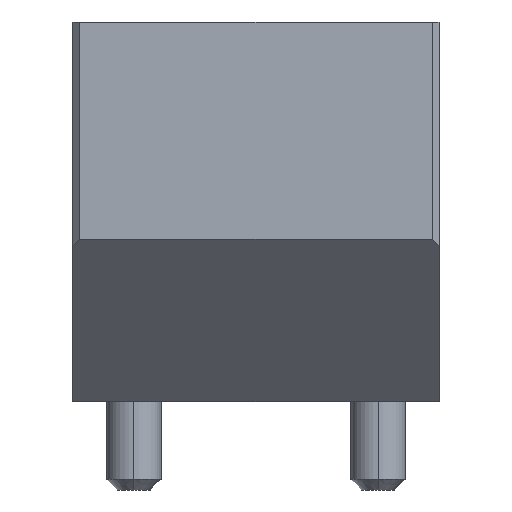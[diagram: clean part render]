
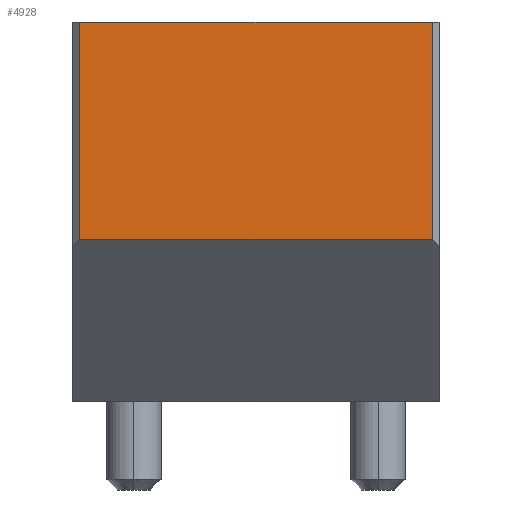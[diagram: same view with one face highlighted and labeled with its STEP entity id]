
A CAD part, left-side view. The second image highlights one B-rep face of the part: STEP entity #4928.
In plain terms, the highlighted planar face has unit normal (-1, 0, 0).
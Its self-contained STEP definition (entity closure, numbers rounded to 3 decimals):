
#95 = AXIS2_PLACEMENT_3D ( 'NONE', #4789, #4786, #4784 ) ;
#103 = VECTOR ( 'NONE', #3458, 1000. ) ;
#664 = VERTEX_POINT ( 'NONE', #1219 ) ;
#1219 = CARTESIAN_POINT ( 'NONE',  ( -41.544, -13.988, -2. ) ) ;
#1666 = LINE ( 'NONE', #3501, #6058 ) ;
#1684 = EDGE_CURVE ( 'NONE', #664, #2954, #1666, .T. ) ;
#1697 = EDGE_CURVE ( 'NONE', #4854, #5482, #5610, .T. ) ;
#1713 = EDGE_CURVE ( 'NONE', #4854, #2954, #2352, .T. ) ;
#1772 = EDGE_CURVE ( 'NONE', #664, #5482, #3051, .T. ) ;
#2352 = LINE ( 'NONE', #3708, #4805 ) ;
#2719 = CARTESIAN_POINT ( 'NONE',  ( -41.544, -39.987, -2. ) ) ;
#2954 = VERTEX_POINT ( 'NONE', #2719 ) ;
#3051 = LINE ( 'NONE', #6448, #6459 ) ;
#3458 = DIRECTION ( 'NONE',  ( 0., 1., 0. ) ) ;
#3462 = EDGE_LOOP ( 'NONE', ( #3479, #5976, #5836, #6118 ) ) ;
#3479 = ORIENTED_EDGE ( 'NONE', *, *, #1713, .F. ) ;
#3501 = CARTESIAN_POINT ( 'NONE',  ( -41.544, -13.488, -2. ) ) ;
#3555 = DIRECTION ( 'NONE',  ( 0., -1., 0. ) ) ;
#3590 = CARTESIAN_POINT ( 'NONE',  ( -41.544, -13.488, 14. ) ) ;
#3708 = CARTESIAN_POINT ( 'NONE',  ( -41.544, -39.987, 14. ) ) ;
#3717 = DIRECTION ( 'NONE',  ( 0., 0., -1. ) ) ;
#4451 = CARTESIAN_POINT ( 'NONE',  ( -41.544, -13.988, 14. ) ) ;
#4784 = DIRECTION ( 'NONE',  ( 0., 0., -1. ) ) ;
#4786 = DIRECTION ( 'NONE',  ( 1., 0., 0. ) ) ;
#4789 = CARTESIAN_POINT ( 'NONE',  ( -41.544, -13.488, 14. ) ) ;
#4796 = PLANE ( 'NONE',  #95 ) ;
#4805 = VECTOR ( 'NONE', #3717, 1000. ) ;
#4854 = VERTEX_POINT ( 'NONE', #5580 ) ;
#4928 = ADVANCED_FACE ( 'NONE', ( #4974 ), #4796, .F. ) ;
#4974 = FACE_OUTER_BOUND ( 'NONE', #3462, .T. ) ;
#5482 = VERTEX_POINT ( 'NONE', #4451 ) ;
#5580 = CARTESIAN_POINT ( 'NONE',  ( -41.544, -39.987, 14. ) ) ;
#5610 = LINE ( 'NONE', #3590, #103 ) ;
#5836 = ORIENTED_EDGE ( 'NONE', *, *, #1772, .F. ) ;
#5976 = ORIENTED_EDGE ( 'NONE', *, *, #1697, .T. ) ;
#6058 = VECTOR ( 'NONE', #3555, 1000. ) ;
#6118 = ORIENTED_EDGE ( 'NONE', *, *, #1684, .T. ) ;
#6162 = DIRECTION ( 'NONE',  ( 0., 0., 1. ) ) ;
#6448 = CARTESIAN_POINT ( 'NONE',  ( -41.544, -13.988, 14. ) ) ;
#6459 = VECTOR ( 'NONE', #6162, 1000. ) ;
